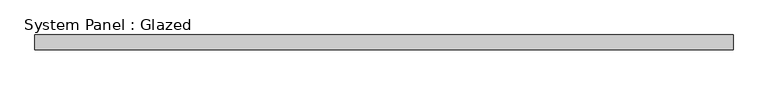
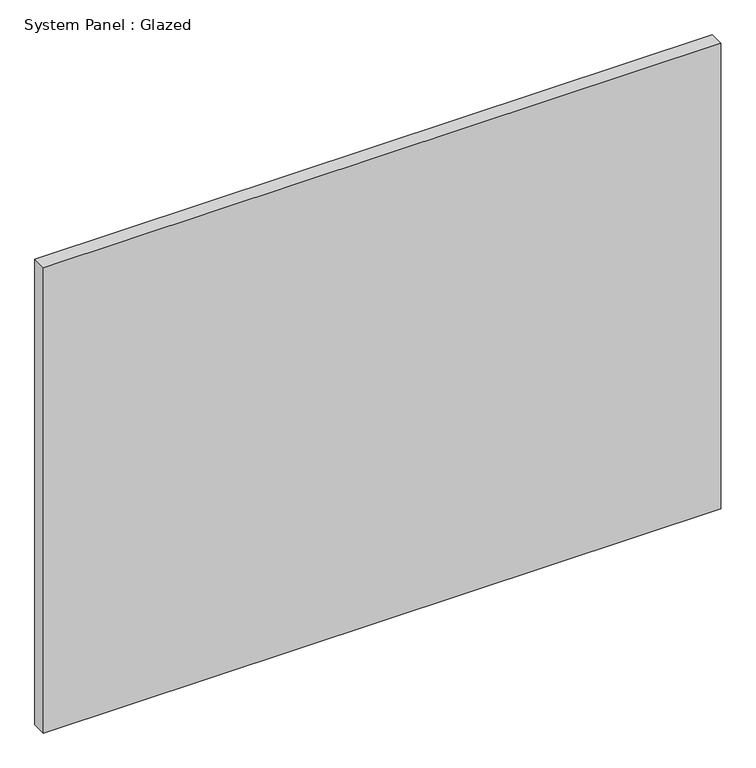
"""IFC4 building model written with IfcOpenShell, lengths in millimetres: plate geometry, System Panel : Glazed."""

from ifc_helpers import new_model, si_unit, origin, origin_with_axes, place, context, project, spatial, polyline, outline, extrude, source, transform, mapped, element, save


def system_panel_glazed_b5861394(model_context):
    return source(origin(), model_context, "Body", "SweptSolid", [
        extrude(outline(polyline([(594.4075643, 19.05), (-594.4075643, 19.05), (-594.4075643, 44.45), (594.4075643, 44.45), (594.4075643, 19.05)])), origin_with_axes(), (0.0, 0.0, 1.0), 863.6),
    ])


if __name__ == "__main__":
    model = new_model("IFC4")
    model_context = context("Model", 3, world=origin())
    ifc_project = project(units=[si_unit("LENGTHUNIT", "METRE", prefix="MILLI")], contexts=[model_context])
    site = spatial("IfcSite", under=ifc_project)
    building = spatial("IfcBuilding", under=site)
    placement = place(None, origin())
    system_panel_glazed_shape = system_panel_glazed_b5861394(model_context)
    element("IfcPlate", 1, ObjectType="System Panel : Glazed", at=placement, inside=building, context=model_context, shape_type="MappedRepresentation", body=[
        mapped(system_panel_glazed_shape, transform((0.0, 0.0, 0.0), x_axis=(1.0, 0.0, 0.0), y_axis=(0.0, 1.0, 0.0), z_axis=(0.0, 0.0, 1.0))),
    ])
    save(model, "model.ifc")
